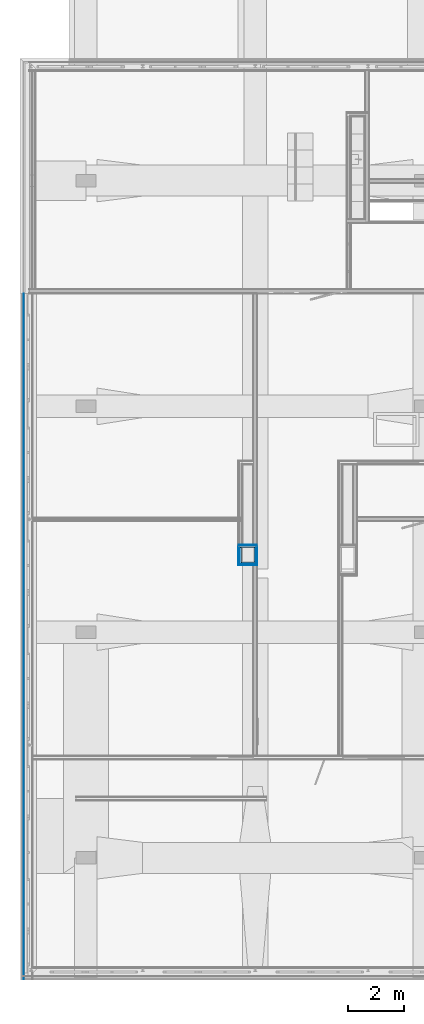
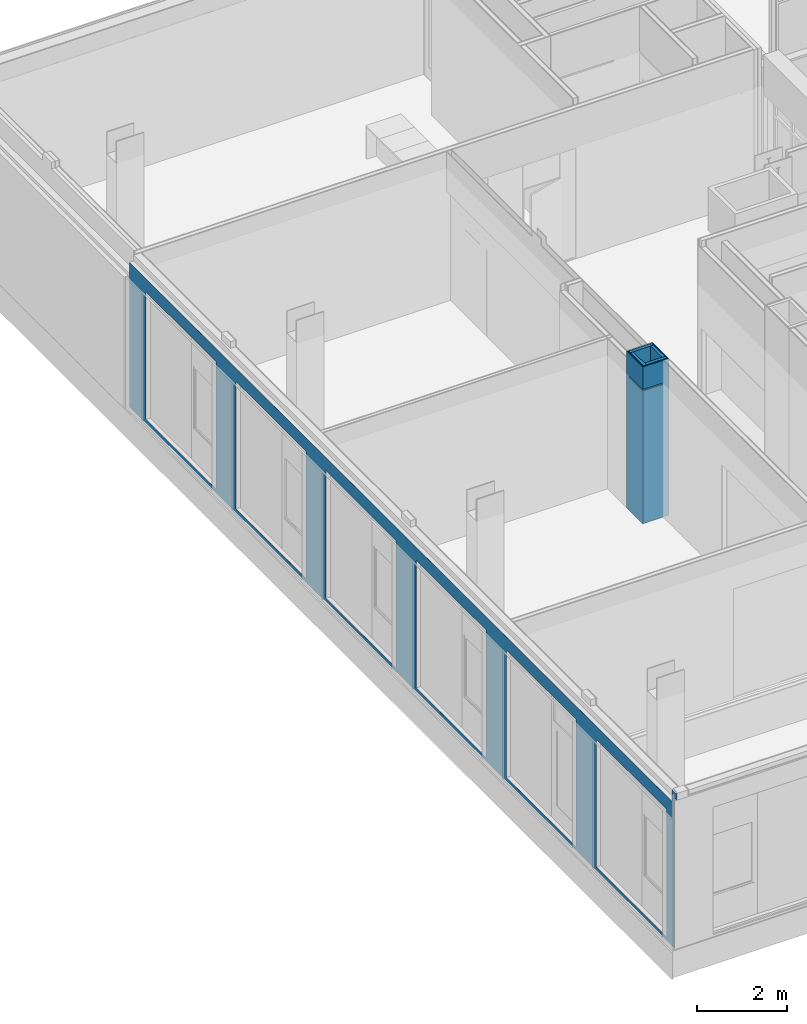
# One storey, part 42 of 94: 15 building element parts, 12 openings, 5 elements without a shape of their own.
"""IFC2X3 building model written with IfcOpenShell, lengths in millimetres."""

from ifc_helpers import new_model, entity, si_unit, converted_unit, derived_unit, money_unit, direction, frame, origin_with_axes, place, context, subcontext, project, spatial, faceted_brep, material, type_object, element, aggregate, save


model = new_model("IFC2X3")

# Units and contexts
model_context = context("Model", 3, precision=0.01, world=origin_with_axes(), true_north=direction((0.0, 1.0)))
body_context = subcontext(model_context, "Body", "Model", "MODEL_VIEW")
ifc_project = project(units=[si_unit("LENGTHUNIT", "METRE", prefix="MILLI"), si_unit("AREAUNIT", "SQUARE_METRE"), si_unit("VOLUMEUNIT", "CUBIC_METRE"), converted_unit("PLANEANGLEUNIT", "DEGREE", entity("IfcPlaneAngleMeasure", 0.0174532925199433), si_unit("PLANEANGLEUNIT", "RADIAN"), dimensions=[0, 0, 0, 0, 0, 0, 0]), money_unit("EUR"), converted_unit("TIMEUNIT", "Year", entity("IfcTimeMeasure", 31557600.0), si_unit("TIMEUNIT", "SECOND"), dimensions=[0, 0, 1, 0, 0, 0, 0]), si_unit("MASSUNIT", "GRAM", prefix="KILO"), si_unit("THERMODYNAMICTEMPERATUREUNIT", "DEGREE_CELSIUS"), si_unit("LUMINOUSINTENSITYUNIT", "LUMEN"), si_unit("ENERGYUNIT", "JOULE", prefix="MEGA"), derived_unit("THERMALCONDUCTANCEUNIT", [(si_unit("POWERUNIT", "WATT"), 1), (si_unit("LENGTHUNIT", "METRE"), -1), (si_unit("THERMODYNAMICTEMPERATUREUNIT", "KELVIN"), -1)]), derived_unit("SPECIFICHEATCAPACITYUNIT", [(si_unit("ENERGYUNIT", "JOULE"), 1), (si_unit("MASSUNIT", "GRAM", prefix="KILO"), -1), (si_unit("THERMODYNAMICTEMPERATUREUNIT", "KELVIN"), -1)]), derived_unit("MASSDENSITYUNIT", [(si_unit("MASSUNIT", "GRAM", prefix="KILO"), 1), (si_unit("VOLUMEUNIT", "CUBIC_METRE"), -1)])], contexts=[model_context])

# Site, building, storey
site_placement = place(None, origin_with_axes())
site = spatial("IfcSite", under=ifc_project, at=site_placement, Name="<site naam>", CompositionType="ELEMENT")
building_placement = place(site_placement, origin_with_axes())
building = spatial("IfcBuilding", under=site, at=building_placement, Name="<Naam gebouw>", CompositionType="ELEMENT")
storey_placement = place(building_placement, frame((0.0, 0.0, 4250.0), z_axis=(0.0, 0.0, 1.0), x_axis=(1.0, 0.0, 0.0)))
storey = spatial("IfcBuildingStorey", under=building, at=storey_placement, Name="01 1e verdieping", CompositionType="ELEMENT", Elevation=4250.0)

# Wall, openings, building element part
wall_type_1 = type_object("IfcWallType", Name="HSB_285 gevelbeplating 420", PredefinedType="NOTDEFINED")
wall_1_placement = place(storey_placement, frame((-12297.99999999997, 12000.00000000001, 0.0), z_axis=(0.0, 0.0, 1.0), x_axis=(0.0, -1.0, 0.0)))
wall_1 = element("IfcWall", 1, at=wall_1_placement, inside=storey, type_object=wall_type_1, Name="21_Binnenwand_HSB_285")
opening_1_placement = place(wall_1_placement, frame((21651.5, 0.0, 99.99999999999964), z_axis=(0.0, 0.0, 1.0), x_axis=(1.0, 0.0, 0.0)))
element("IfcOpeningElement", 2, at=opening_1_placement, cuts=wall_1, Name="21_BU-A-12a_305", context=body_context, shape_type="Brep", body=[
    faceted_brep([(918.4999999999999, 212.9999999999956, 3450.0), (-918.4999999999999, 212.9999999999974, 3450.0), (-918.4999999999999, -0.9999999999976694, 3450.0), (918.4999999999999, -0.9999999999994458, 3450.0), (918.4999999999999, 421.0000000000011, 3450.0), (-918.4999999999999, 421.000000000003, 3450.0), (-918.4999999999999, 212.9999999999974, 0.0), (-918.4999999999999, -0.9999999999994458, 0.0), (918.4999999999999, -0.9999999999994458, 0.0), (918.4999999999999, 212.9999999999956, 0.0), (918.4999999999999, 421.0000000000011, 0.0), (-918.4999999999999, 421.000000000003, 0.0)], [[[0, 1, 2, 3]], [[1, 0, 4, 5]], [[1, 6, 7, 2]], [[2, 7, 8, 3]], [[9, 0, 3, 8]], [[0, 9, 10, 4]], [[4, 10, 11, 5]], [[6, 1, 5, 11]], [[6, 9, 8, 7]], [[9, 6, 11, 10]]]),
])
opening_2_placement = place(wall_1_placement, frame((23203.5, 0.0, 99.99999999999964), z_axis=(0.0, 0.0, 1.0), x_axis=(1.0, 0.0, 0.0)))
element("IfcOpeningElement", 3, at=opening_2_placement, cuts=wall_1, Name="21_BU-A-12b_305", context=body_context, shape_type="Brep", body=[
    faceted_brep([(633.4999999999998, 212.9999999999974, 3450.0), (-633.4999999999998, 212.9999999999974, 3450.0), (-633.4999999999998, -0.9999999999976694, 3450.0), (633.4999999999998, -0.9999999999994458, 3450.0), (633.4999999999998, 421.0000000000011, 3450.0), (-633.4999999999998, 421.0000000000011, 3450.0), (-633.4999999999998, 212.9999999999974, 0.0), (-633.4999999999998, -0.9999999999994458, 0.0), (633.4999999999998, -0.9999999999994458, 0.0), (633.4999999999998, 212.9999999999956, 0.0), (633.4999999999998, 420.9999999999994, 0.0), (-633.4999999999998, 421.0000000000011, 0.0)], [[[0, 1, 2, 3]], [[1, 0, 4, 5]], [[1, 6, 7, 2]], [[2, 7, 8, 3]], [[9, 0, 3, 8]], [[0, 9, 10, 4]], [[4, 10, 11, 5]], [[6, 1, 5, 11]], [[6, 9, 8, 7]], [[9, 6, 11, 10]]]),
])
opening_3_placement = place(wall_1_placement, frame((13651.49999999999, 0.0, 99.99999999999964), z_axis=(0.0, 0.0, 1.0), x_axis=(1.0, 0.0, 0.0)))
element("IfcOpeningElement", 4, at=opening_3_placement, cuts=wall_1, Name="21_BU-A-12a_305", context=body_context, shape_type="Brep", body=[
    faceted_brep([(918.4999999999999, 212.9999999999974, 3450.0), (-918.5, 212.9999999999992, 3450.0), (-918.5, -1.000000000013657, 3450.0), (918.4999999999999, -1.000000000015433, 3450.0), (918.4999999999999, 421.00000000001, 3450.0), (-918.5, 421.0000000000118, 3450.0), (-918.5, 212.9999999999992, 0.0), (-918.5, -1.000000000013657, 0.0), (918.4999999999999, -1.000000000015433, 0.0), (918.4999999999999, 212.9999999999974, 0.0), (918.4999999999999, 421.00000000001, 0.0), (-918.5, 421.0000000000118, 0.0)], [[[0, 1, 2, 3]], [[1, 0, 4, 5]], [[1, 6, 7, 2]], [[2, 7, 8, 3]], [[9, 0, 3, 8]], [[0, 9, 10, 4]], [[4, 10, 11, 5]], [[6, 1, 5, 11]], [[6, 9, 8, 7]], [[9, 6, 11, 10]]]),
])
opening_4_placement = place(wall_1_placement, frame((15203.49999999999, 0.0, 99.99999999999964), z_axis=(0.0, 0.0, 1.0), x_axis=(1.0, 0.0, 0.0)))
element("IfcOpeningElement", 5, at=opening_4_placement, cuts=wall_1, Name="21_BU-A-12b_305", context=body_context, shape_type="Brep", body=[
    faceted_brep([(633.4999999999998, 212.9999999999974, 3450.0), (-633.4999999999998, 212.9999999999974, 3450.0), (-633.4999999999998, -0.9999999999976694, 3450.0), (633.4999999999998, -0.9999999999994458, 3450.0), (633.4999999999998, 421.0000000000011, 3450.0), (-633.4999999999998, 421.0000000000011, 3450.0), (-633.4999999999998, 212.9999999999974, 0.0), (-633.4999999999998, -0.9999999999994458, 0.0), (633.4999999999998, -0.9999999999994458, 0.0), (633.4999999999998, 212.9999999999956, 0.0), (633.4999999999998, 420.9999999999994, 0.0), (-633.4999999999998, 421.0000000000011, 0.0)], [[[0, 1, 2, 3]], [[1, 0, 4, 5]], [[1, 6, 7, 2]], [[2, 7, 8, 3]], [[9, 0, 3, 8]], [[0, 9, 10, 4]], [[4, 10, 11, 5]], [[6, 1, 5, 11]], [[6, 9, 8, 7]], [[9, 6, 11, 10]]]),
])
opening_5_placement = place(wall_1_placement, frame((11203.48397384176, 0.0, 99.99999999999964), z_axis=(0.0, 0.0, 1.0), x_axis=(1.0, 0.0, 0.0)))
element("IfcOpeningElement", 6, at=opening_5_placement, cuts=wall_1, Name="21_BU-A-12b_305", context=body_context, shape_type="Brep", body=[
    faceted_brep([(633.5, 212.9999999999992, 3450.0), (-633.5, 212.9999999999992, 3450.0), (-633.5, -1.000000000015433, 3450.0), (633.5, -1.000000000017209, 3450.0), (633.5, 421.0000000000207, 3450.0), (-633.5, 421.0000000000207, 3450.0), (-633.5, 212.9999999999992, 0.0), (-633.5, -1.000000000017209, 0.0), (633.5, -1.000000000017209, 0.0), (633.5, 212.9999999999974, 0.0), (633.5, 421.0000000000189, 0.0), (-633.5, 421.0000000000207, 0.0)], [[[0, 1, 2, 3]], [[1, 0, 4, 5]], [[1, 6, 7, 2]], [[2, 7, 8, 3]], [[9, 0, 3, 8]], [[0, 9, 10, 4]], [[4, 10, 11, 5]], [[6, 1, 5, 11]], [[6, 9, 8, 7]], [[9, 6, 11, 10]]]),
])
opening_6_placement = place(wall_1_placement, frame((5651.499999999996, 0.0, 99.99999999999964), z_axis=(0.0, 0.0, 1.0), x_axis=(1.0, 0.0, 0.0)))
element("IfcOpeningElement", 7, at=opening_6_placement, cuts=wall_1, Name="21_BU-A-12a_305", context=body_context, shape_type="Brep", body=[
    faceted_brep([(918.4999999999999, 212.9999999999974, 3450.0), (-918.4999999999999, 212.9999999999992, 3450.0), (-918.4999999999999, -1.000000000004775, 3450.0), (918.4999999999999, -1.000000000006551, 3450.0), (918.4999999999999, 421.0000000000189, 3450.0), (-918.4999999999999, 421.0000000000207, 3450.0), (-918.4999999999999, 212.9999999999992, 0.0), (-918.4999999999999, -1.000000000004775, 0.0), (918.4999999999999, -1.000000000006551, 0.0), (918.4999999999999, 212.9999999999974, 0.0), (918.4999999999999, 421.0000000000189, 0.0), (-918.4999999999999, 421.0000000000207, 0.0)], [[[0, 1, 2, 3]], [[1, 0, 4, 5]], [[1, 6, 7, 2]], [[2, 7, 8, 3]], [[9, 0, 3, 8]], [[0, 9, 10, 4]], [[4, 10, 11, 5]], [[6, 1, 5, 11]], [[6, 9, 8, 7]], [[9, 6, 11, 10]]]),
])
opening_7_placement = place(wall_1_placement, frame((7203.499999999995, 0.0, 99.99999999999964), z_axis=(0.0, 0.0, 1.0), x_axis=(1.0, 0.0, 0.0)))
element("IfcOpeningElement", 8, at=opening_7_placement, cuts=wall_1, Name="21_BU-A-12b_305", context=body_context, shape_type="Brep", body=[
    faceted_brep([(633.4999999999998, 212.9999999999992, 3450.0), (-633.4999999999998, 212.9999999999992, 3450.0), (-633.4999999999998, -1.000000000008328, 3450.0), (633.4999999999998, -1.000000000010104, 3450.0), (633.4999999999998, 421.0000000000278, 3450.0), (-633.4999999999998, 421.0000000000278, 3450.0), (-633.4999999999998, 212.9999999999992, 0.0), (-633.4999999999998, -1.000000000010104, 0.0), (633.4999999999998, -1.000000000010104, 0.0), (633.4999999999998, 212.9999999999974, 0.0), (633.4999999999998, 421.000000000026, 0.0), (-633.4999999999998, 421.0000000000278, 0.0)], [[[0, 1, 2, 3]], [[1, 0, 4, 5]], [[1, 6, 7, 2]], [[2, 7, 8, 3]], [[9, 0, 3, 8]], [[0, 9, 10, 4]], [[4, 10, 11, 5]], [[6, 1, 5, 11]], [[6, 9, 8, 7]], [[9, 6, 11, 10]]]),
])
opening_8_placement = place(wall_1_placement, frame((9651.48397384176, 0.0, 99.99999999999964), z_axis=(0.0, 0.0, 1.0), x_axis=(1.0, 0.0, 0.0)))
element("IfcOpeningElement", 9, at=opening_8_placement, cuts=wall_1, Name="21_BU-A-12a_305", context=body_context, shape_type="Brep", body=[
    faceted_brep([(918.4999999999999, 212.9999999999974, 3450.0), (-918.4999999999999, 212.9999999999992, 3450.0), (-918.4999999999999, -1.000000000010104, 3450.0), (918.4999999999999, -1.00000000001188, 3450.0), (918.4999999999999, 421.0000000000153, 3450.0), (-918.4999999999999, 421.0000000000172, 3450.0), (-918.4999999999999, 212.9999999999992, 0.0), (-918.4999999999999, -1.000000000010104, 0.0), (918.4999999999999, -1.00000000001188, 0.0), (918.4999999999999, 212.9999999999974, 0.0), (918.4999999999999, 421.0000000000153, 0.0), (-918.4999999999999, 421.0000000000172, 0.0)], [[[0, 1, 2, 3]], [[1, 0, 4, 5]], [[1, 6, 7, 2]], [[2, 7, 8, 3]], [[9, 0, 3, 8]], [[0, 9, 10, 4]], [[4, 10, 11, 5]], [[6, 1, 5, 11]], [[6, 9, 8, 7]], [[9, 6, 11, 10]]]),
])
opening_9_placement = place(wall_1_placement, frame((1651.483973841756, 0.0, 99.99999999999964), z_axis=(0.0, 0.0, 1.0), x_axis=(1.0, 0.0, 0.0)))
element("IfcOpeningElement", 10, at=opening_9_placement, cuts=wall_1, Name="21_BU-A-12a_305", context=body_context, shape_type="Brep", body=[
    faceted_brep([(918.4999999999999, 212.9999999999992, 3450.0), (-918.4999999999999, 213.000000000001, 3450.0), (-918.4999999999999, -0.9999999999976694, 3450.0), (918.4999999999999, -0.9999999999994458, 3450.0), (918.4999999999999, 421.0000000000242, 3450.0), (-918.4999999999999, 421.000000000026, 3450.0), (-918.4999999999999, 213.000000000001, 0.0), (-918.4999999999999, -0.9999999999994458, 0.0), (918.4999999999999, -0.9999999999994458, 0.0), (918.4999999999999, 212.9999999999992, 0.0), (918.4999999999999, 421.0000000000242, 0.0), (-918.4999999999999, 421.000000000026, 0.0)], [[[0, 1, 2, 3]], [[1, 0, 4, 5]], [[1, 6, 7, 2]], [[2, 7, 8, 3]], [[9, 0, 3, 8]], [[0, 9, 10, 4]], [[4, 10, 11, 5]], [[6, 1, 5, 11]], [[6, 9, 8, 7]], [[9, 6, 11, 10]]]),
])
opening_10_placement = place(wall_1_placement, frame((17651.5, 0.0, 99.99999999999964), z_axis=(0.0, 0.0, 1.0), x_axis=(1.0, 0.0, 0.0)))
element("IfcOpeningElement", 11, at=opening_10_placement, cuts=wall_1, Name="21_BU-A-12a_305", context=body_context, shape_type="Brep", body=[
    faceted_brep([(918.4999999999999, 212.9999999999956, 3450.0), (-918.4999999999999, 212.9999999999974, 3450.0), (-918.4999999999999, -0.9999999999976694, 3450.0), (918.4999999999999, -0.9999999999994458, 3450.0), (918.4999999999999, 421.0000000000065, 3450.0), (-918.4999999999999, 421.0000000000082, 3450.0), (-918.4999999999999, 212.9999999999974, 0.0), (-918.4999999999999, -0.9999999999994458, 0.0), (918.4999999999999, -0.9999999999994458, 0.0), (918.4999999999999, 212.9999999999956, 0.0), (918.4999999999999, 421.0000000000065, 0.0), (-918.4999999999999, 421.0000000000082, 0.0)], [[[0, 1, 2, 3]], [[1, 0, 4, 5]], [[1, 6, 7, 2]], [[2, 7, 8, 3]], [[9, 0, 3, 8]], [[0, 9, 10, 4]], [[4, 10, 11, 5]], [[6, 1, 5, 11]], [[6, 9, 8, 7]], [[9, 6, 11, 10]]]),
])
opening_11_placement = place(wall_1_placement, frame((3203.483973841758, 0.0, 99.99999999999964), z_axis=(0.0, 0.0, 1.0), x_axis=(1.0, 0.0, 0.0)))
element("IfcOpeningElement", 12, at=opening_11_placement, cuts=wall_1, Name="21_BU-A-12b_305", context=body_context, shape_type="Brep", body=[
    faceted_brep([(633.4999999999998, 213.000000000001, 3450.0), (-633.4999999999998, 213.000000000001, 3450.0), (-633.4999999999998, -0.9999999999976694, 3450.0), (633.4999999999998, -0.9999999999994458, 3450.0), (633.4999999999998, 421.0000000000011, 3450.0), (-633.4999999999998, 421.0000000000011, 3450.0), (-633.4999999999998, 213.000000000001, 0.0), (-633.4999999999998, -0.9999999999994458, 0.0), (633.4999999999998, -0.9999999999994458, 0.0), (633.4999999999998, 212.9999999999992, 0.0), (633.4999999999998, 420.9999999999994, 0.0), (-633.4999999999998, 421.0000000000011, 0.0)], [[[0, 1, 2, 3]], [[1, 0, 4, 5]], [[1, 6, 7, 2]], [[2, 7, 8, 3]], [[9, 0, 3, 8]], [[0, 9, 10, 4]], [[4, 10, 11, 5]], [[6, 1, 5, 11]], [[6, 9, 8, 7]], [[9, 6, 11, 10]]]),
])
opening_12_placement = place(wall_1_placement, frame((19203.51614474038, 0.0, 102.9999634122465), z_axis=(0.0, 0.0, 1.0), x_axis=(1.0, 0.0, 0.0)))
element("IfcOpeningElement", 13, at=opening_12_placement, cuts=wall_1, Name="21_BU-A-12c_305", context=body_context, shape_type="Brep", body=[
    faceted_brep([(633.504886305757, 204.9999999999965, 3454.0), (-633.504886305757, 204.9999999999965, 3454.0), (-633.504886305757, -0.9999999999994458, 3454.0), (633.504886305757, -0.9999999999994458, 3454.0), (633.504886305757, 420.9999999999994, 3454.0), (-633.504886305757, 420.9999999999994, 3454.0), (-633.504886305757, 204.9999999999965, 0.0), (-633.504886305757, -0.9999999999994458, 0.0), (633.504886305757, -0.9999999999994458, 0.0), (633.504886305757, 204.9999999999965, 0.0), (633.504886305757, 420.9999999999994, 0.0), (-633.504886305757, 420.9999999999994, 0.0)], [[[0, 1, 2, 3]], [[1, 0, 4, 5]], [[1, 6, 7, 2]], [[2, 7, 8, 3]], [[9, 0, 3, 8]], [[0, 9, 10, 4]], [[4, 10, 11, 5]], [[6, 1, 5, 11]], [[6, 9, 8, 7]], [[9, 6, 11, 10]]]),
])
ifc_material_1 = material(Name="folie_dampopen")
building_element_part_1_placement = place(wall_1_placement, origin_with_axes())
building_element_part_1 = element("IfcBuildingElementPart", 14, at=building_element_part_1_placement, material=ifc_material_1, Name="folie_dampopen", context=body_context, shape_type="Brep", body=[
    faceted_brep([(24082.49008809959, 101.9999999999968, 4220.000040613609), (24082.49008809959, 102.4999999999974, 4220.000040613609), (24082.49008809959, 102.4999999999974, 3909.999659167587), (24082.49008809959, 101.9999999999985, 3909.999659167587), (24274.99008809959, 102.4999999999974, 4220.000040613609), (24274.99008809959, 101.9999999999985, 4220.000040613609), (24274.99008809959, 102.4999999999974, 4249.999998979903), (24300.03170931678, 102.4999999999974, 4249.99999897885), (24300.03170931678, 102.4999999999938, 4070.000000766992), (24198.03170931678, 102.4999999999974, 4070.000000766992), (24198.03170931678, 102.4999999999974, 0.0), (0.0, 102.4999999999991, 0.0), (0.0, 102.5000000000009, 3909.999659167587), (0.0, 102.0000000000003, 3909.999659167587), (0.0, 102.0000000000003, 0.0), (24198.03170931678, 101.9999999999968, 0.0), (24198.03170931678, 101.9999999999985, 4070.000000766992), (24300.03170931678, 101.9999999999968, 4070.000000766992), (24300.03170931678, 101.9999999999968, 4249.99999897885), (24274.99008809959, 101.9999999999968, 4249.999998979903)], [[[0, 1, 2, 3]], [[4, 1, 0, 5]], [[4, 6, 7, 8, 9, 10, 11, 12, 2, 1]], [[3, 2, 12, 13]], [[5, 0, 3, 13, 14, 15, 16, 17, 18, 19]], [[19, 6, 4, 5]], [[6, 19, 18, 7]], [[7, 18, 17, 8]], [[8, 17, 16, 9]], [[16, 15, 10, 9]], [[14, 11, 10, 15]], [[14, 13, 12, 11]]]),
])
aggregate(wall_1, [building_element_part_1])

# Wall, building element parts
wall_type_2 = type_object("IfcWallType", Name="MS-04 GF 138 V/100.3.A 113", PredefinedType="NOTDEFINED")
wall_2_placement = place(storey_placement, frame((-3924.99979006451, 3104.999976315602, 0.0), z_axis=(0.0, 0.0, 1.0), x_axis=(-0.9999999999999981, -6.217457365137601e-08, 0.0)))
wall_2 = element("IfcWall", 15, at=wall_2_placement, inside=storey, type_object=wall_type_2, Name="22_Binnenwand_MS-04")
ifc_material_2 = material(Name="isolatie_steenwol LSW")
building_element_part_2_placement = place(wall_2_placement, origin_with_axes())
building_element_part_2 = element("IfcBuildingElementPart", 16, at=building_element_part_2_placement, material=ifc_material_2, Name="isolatie_steenwol LSW", context=body_context, shape_type="Brep", body=[
    faceted_brep([(37.50000699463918, 112.4999976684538, 4250.0), (37.50000233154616, 37.49999766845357, 4250.0), (632.4996341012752, 37.49996067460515, 4250.0), (632.4996387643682, 112.4999606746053, 4250.0), (37.5000023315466, 37.49999766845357, 0.0), (37.50000699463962, 112.4999976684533, 0.0), (632.4996341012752, 37.49996067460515, 0.0), (632.4996387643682, 112.4999606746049, 0.0)], [[[0, 1, 2, 3]], [[4, 1, 0, 5]], [[1, 4, 6, 2]], [[3, 2, 6, 7]], [[5, 0, 3, 7]], [[4, 5, 7, 6]]]),
])
ifc_material_3 = material(Name="gipsplaat")
building_element_part_3_placement = place(wall_2_placement, origin_with_axes())
building_element_part_3 = element("IfcBuildingElementPart", 17, at=building_element_part_3_placement, material=ifc_material_3, Name="gipsplaat", context=body_context, shape_type="Brep", body=[
    faceted_brep([(12.50000155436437, 24.99999922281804, 4250.0), (12.50000077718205, 12.49999922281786, 4250.0), (657.4996325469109, 12.49995912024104, 4250.0), (657.4996333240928, 24.99995912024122, 4250.0), (12.5000007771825, 12.4999992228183, 0.0), (12.50000155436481, 24.99999922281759, 0.0), (657.4996325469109, 12.4999591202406, 0.0), (657.4996333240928, 24.99995912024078, 0.0)], [[[0, 1, 2, 3]], [[4, 1, 0, 5]], [[1, 4, 6, 2]], [[3, 2, 6, 7]], [[5, 0, 3, 7]], [[4, 5, 7, 6]]]),
])
aggregate(wall_2, [building_element_part_2, building_element_part_3])

wall_3_placement = place(storey_placement, frame((-4594.99942183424, 3104.999934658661, 0.0), z_axis=(0.0, 0.0, 1.0), x_axis=(0.0, -1.0, 0.0)))
wall_3 = element("IfcWall", 18, at=wall_3_placement, inside=storey, type_object=wall_type_2, Name="22_Binnenwand_MS-04")
building_element_part_4_placement = place(wall_3_placement, origin_with_axes())
building_element_part_4 = element("IfcBuildingElementPart", 19, at=building_element_part_4_placement, material=ifc_material_2, Name="isolatie_steenwol LSW", context=body_context, shape_type="Brep", body=[
    faceted_brep([(637.5319356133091, 112.4999999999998, 3.000000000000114), (637.5319356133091, 112.4999999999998, 0.0), (112.4999930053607, 112.4999999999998, 0.0), (112.4999930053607, 112.5000000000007, 4250.0), (692.6809481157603, 112.4999999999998, 4250.0), (692.6809481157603, 112.4999999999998, 3640.0), (149.896176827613, 112.4999999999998, 3640.0), (149.896176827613, 112.4999999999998, 3600.0), (692.6809481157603, 112.4999999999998, 3600.0), (692.6809481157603, 112.4999999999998, 3.000000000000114), (637.5319356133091, 37.50000000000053, 3.000000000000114), (637.5319356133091, 37.49999999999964, 0.0), (112.4999976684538, 37.49999999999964, 0.0), (112.4999976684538, 37.50000000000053, 4250.0), (692.6809481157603, 37.50000000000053, 4250.0), (692.6809481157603, 37.50000000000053, 3640.0), (149.896176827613, 37.50000000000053, 3640.0), (149.896176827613, 37.50000000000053, 3600.0), (692.6809481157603, 37.50000000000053, 3600.0), (692.6809481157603, 37.49999999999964, 3.000000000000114)], [[[0, 1, 2, 3, 4, 5, 6, 7, 8, 9]], [[1, 0, 10, 11]], [[1, 11, 12, 2]], [[3, 2, 12, 13]], [[14, 4, 3, 13]], [[15, 5, 4, 14]], [[6, 5, 15, 16]], [[7, 6, 16, 17]], [[8, 7, 17, 18]], [[19, 9, 8, 18]], [[0, 9, 19, 10]], [[10, 19, 18, 17, 16, 15, 14, 13, 12, 11]]]),
])
building_element_part_5_placement = place(wall_3_placement, origin_with_axes())
building_element_part_5 = element("IfcBuildingElementPart", 20, at=building_element_part_5_placement, material=ifc_material_3, Name="gipsplaat", context=body_context, shape_type="Brep", body=[
    faceted_brep([(637.5319356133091, 37.49999999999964, 3.000000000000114), (637.5319356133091, 37.49999999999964, 0.0), (37.49999766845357, 37.49999999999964, 0.0), (37.49999766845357, 37.50000000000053, 4250.0), (705.1809481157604, 37.50000000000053, 4250.0), (705.1809481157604, 37.50000000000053, 3640.0), (149.896176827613, 37.49999999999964, 3640.0), (149.896176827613, 37.49999999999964, 3600.0), (705.1809481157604, 37.50000000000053, 3600.0), (705.1809481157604, 37.49999999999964, 3.000000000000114), (637.5319356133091, 25.00000000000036, 3.000000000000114), (637.5319356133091, 24.99999999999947, 0.0), (37.4999984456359, 25.00000000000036, 0.0), (37.4999984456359, 25.00000000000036, 4250.0), (705.1809481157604, 25.00000000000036, 4250.0), (705.1809481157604, 25.00000000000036, 3640.0), (149.896176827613, 25.00000000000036, 3640.0), (149.896176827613, 25.00000000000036, 3600.0), (705.1809481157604, 25.00000000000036, 3600.0), (705.1809481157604, 24.99999999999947, 3.000000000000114)], [[[0, 1, 2, 3, 4, 5, 6, 7, 8, 9]], [[1, 0, 10, 11]], [[1, 11, 12, 2]], [[3, 2, 12, 13]], [[14, 4, 3, 13]], [[15, 5, 4, 14]], [[6, 5, 15, 16]], [[7, 6, 16, 17]], [[8, 7, 17, 18]], [[19, 9, 8, 18]], [[0, 9, 19, 10]], [[10, 19, 18, 17, 16, 15, 14, 13, 12, 11]]]),
])
building_element_part_6_placement = place(wall_3_placement, origin_with_axes())
building_element_part_6 = element("IfcBuildingElementPart", 21, at=building_element_part_6_placement, material=ifc_material_3, Name="gipsplaat", context=body_context, shape_type="Brep", body=[
    faceted_brep([(637.5319356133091, 24.99999999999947, 3.000000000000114), (637.5319356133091, 24.99999999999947, 0.0), (24.99999844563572, 25.00000000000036, 0.0), (24.99999844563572, 25.00000000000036, 4250.0), (717.6809481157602, 25.00000000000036, 4250.0), (717.6809481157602, 25.00000000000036, 3640.0), (149.896176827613, 24.99999999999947, 3640.0), (149.896176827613, 24.99999999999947, 3600.0), (717.6809481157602, 25.00000000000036, 3600.0), (717.6809481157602, 24.99999999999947, 3.000000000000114), (637.5319356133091, 12.50000000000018, 3.000000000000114), (637.5319356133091, 12.50000000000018, 0.0), (24.99999922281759, 12.50000000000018, 0.0), (24.99999922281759, 12.50000000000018, 4250.0), (717.6809481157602, 12.50000000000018, 4250.0), (717.6809481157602, 12.50000000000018, 3640.0), (149.896176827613, 12.50000000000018, 3640.0), (149.896176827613, 12.50000000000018, 3600.0), (717.6809481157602, 12.50000000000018, 3600.0), (717.6809481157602, 12.50000000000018, 3.000000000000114)], [[[0, 1, 2, 3, 4, 5, 6, 7, 8, 9]], [[1, 0, 10, 11]], [[1, 11, 12, 2]], [[3, 2, 12, 13]], [[14, 4, 3, 13]], [[15, 5, 4, 14]], [[6, 5, 15, 16]], [[7, 6, 16, 17]], [[8, 7, 17, 18]], [[19, 9, 8, 18]], [[0, 9, 19, 10]], [[10, 19, 18, 17, 16, 15, 14, 13, 12, 11]]]),
])

# Wall, building element part
wall_4_placement = place(storey_placement, frame((-4594.99942183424, 2374.818986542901, 0.0), z_axis=(0.0, 0.0, 1.0), x_axis=(1.0, 0.0, 0.0)))
wall_4 = element("IfcWall", 22, at=wall_4_placement, inside=storey, type_object=wall_type_2, Name="22_Binnenwand_MS-04")
building_element_part_7_placement = place(wall_4_placement, origin_with_axes())
building_element_part_7 = element("IfcBuildingElementPart", 23, at=building_element_part_7_placement, material=ifc_material_2, Name="isolatie_steenwol LSW", context=body_context, shape_type="Brep", body=[
    faceted_brep([(632.4996317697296, 92.64901250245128, 3.000000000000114), (632.4996317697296, 92.64901250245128, 0.0), (632.4996317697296, 112.5000000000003, 0.0), (632.4996317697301, 112.5000000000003, 4250.0), (632.4996317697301, 37.50000000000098, 4250.0), (632.4996317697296, 37.50000000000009, 3.000000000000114), (112.4999999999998, 92.64901250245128, 3.000000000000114), (112.4999999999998, 92.64901250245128, 0.0), (112.4999999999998, 112.4999999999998, 0.0), (112.4999999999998, 112.5000000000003, 3600.0), (519.9994506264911, 112.5000000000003, 3600.0), (519.9994506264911, 112.5000000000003, 3640.0), (112.4999999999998, 112.5000000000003, 3640.0), (112.4999999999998, 112.5000000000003, 4250.0), (112.4999999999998, 37.50000000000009, 4250.0), (112.4999999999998, 37.50000000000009, 3.000000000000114), (112.4999999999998, 37.50000000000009, 3640.0), (519.9994506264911, 37.50000000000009, 3640.0), (519.9994506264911, 37.50000000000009, 3600.0), (112.4999999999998, 37.50000000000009, 3600.0)], [[[0, 1, 2, 3, 4, 5]], [[1, 0, 6, 7]], [[1, 7, 8, 2]], [[9, 10, 11, 12, 13, 3, 2, 8]], [[14, 4, 3, 13]], [[15, 5, 4, 14, 16, 17, 18, 19]], [[0, 5, 15, 6]], [[6, 15, 19, 9, 8, 7]], [[10, 9, 19, 18]], [[11, 10, 18, 17]], [[12, 11, 17, 16]], [[12, 16, 14, 13]]]),
])

# Building element part
building_element_part_8_placement = place(wall_3_placement, origin_with_axes())
building_element_part_8 = element("IfcBuildingElementPart", 24, at=building_element_part_8_placement, material=ifc_material_3, Name="gipsplaat", context=body_context, shape_type="Brep", body=[
    faceted_brep([(637.5319356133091, 12.50000000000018, 3.000000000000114), (637.5319356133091, 12.50000000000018, 0.0), (12.49999922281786, 12.50000000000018, 0.0), (12.49999922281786, 12.50000000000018, 4250.0), (730.1809481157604, 12.50000000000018, 4250.0), (730.1809481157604, 12.50000000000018, 3640.0), (149.896176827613, 12.50000000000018, 3640.0), (149.896176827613, 12.50000000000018, 3600.0), (730.1809481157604, 12.50000000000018, 3600.0), (730.1809481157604, 12.50000000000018, 3.000000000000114), (637.5319356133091, 0.0, 3.000000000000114), (637.5319356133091, 0.0, 0.0), (12.50000000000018, 0.0, 0.0), (12.50000000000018, 0.0, 4250.0), (730.1809481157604, 0.0, 4250.0), (730.1809481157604, 0.0, 3640.0), (149.896176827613, 0.0, 3640.0), (149.896176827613, 0.0, 3600.0), (730.1809481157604, 0.0, 3600.0), (730.1809481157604, 0.0, 3.000000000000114)], [[[0, 1, 2, 3, 4, 5, 6, 7, 8, 9]], [[1, 0, 10, 11]], [[1, 11, 12, 2]], [[3, 2, 12, 13]], [[14, 4, 3, 13]], [[15, 5, 4, 14]], [[6, 5, 15, 16]], [[7, 6, 16, 17]], [[8, 7, 17, 18]], [[19, 9, 8, 18]], [[0, 9, 19, 10]], [[10, 19, 18, 17, 16, 15, 14, 13, 12, 11]]]),
])

aggregate(wall_3, [building_element_part_4, building_element_part_5, building_element_part_6, building_element_part_8])

building_element_part_9_placement = place(wall_4_placement, origin_with_axes())
building_element_part_9 = element("IfcBuildingElementPart", 25, at=building_element_part_9_placement, material=ifc_material_3, Name="gipsplaat", context=body_context, shape_type="Brep", body=[
    faceted_brep([(657.4996317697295, 12.50000000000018, 3.000000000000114), (657.4996317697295, 24.99999999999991, 3.000000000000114), (657.4996317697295, 25.00000000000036, 4250.0), (657.4996317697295, 12.50000000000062, 4250.0), (25.00000000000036, 24.99999999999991, 3.000000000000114), (25.00000000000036, 12.50000000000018, 3.000000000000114), (25.00000000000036, 25.00000000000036, 3600.0), (519.9994506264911, 24.99999999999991, 3600.0), (519.9994506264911, 24.99999999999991, 3640.0), (25.00000000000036, 25.00000000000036, 3640.0), (25.00000000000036, 25.00000000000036, 4250.0), (25.00000000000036, 12.50000000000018, 4250.0), (25.00000000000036, 12.50000000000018, 3640.0), (519.9994506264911, 12.50000000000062, 3640.0), (519.9994506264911, 12.50000000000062, 3600.0), (25.00000000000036, 12.50000000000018, 3600.0)], [[[0, 1, 2, 3]], [[4, 1, 0, 5]], [[1, 4, 6, 7, 8, 9, 10, 2]], [[11, 3, 2, 10]], [[5, 0, 3, 11, 12, 13, 14, 15]], [[4, 5, 15, 6]], [[7, 6, 15, 14]], [[8, 7, 14, 13]], [[9, 8, 13, 12]], [[9, 12, 11, 10]]]),
])

building_element_part_10_placement = place(wall_4_placement, origin_with_axes())
building_element_part_10 = element("IfcBuildingElementPart", 26, at=building_element_part_10_placement, material=ifc_material_3, Name="gipsplaat", context=body_context, shape_type="Brep", body=[
    faceted_brep([(644.9996317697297, 24.99999999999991, 3.000000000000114), (644.9996317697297, 37.50000000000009, 3.000000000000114), (644.9996317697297, 37.50000000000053, 4250.0), (644.9996317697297, 25.0000000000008, 4250.0), (37.49999999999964, 37.50000000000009, 3.000000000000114), (37.49999999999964, 24.99999999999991, 3.000000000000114), (37.49999999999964, 37.50000000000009, 3600.0), (519.9994506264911, 37.50000000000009, 3600.0), (519.9994506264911, 37.50000000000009, 3640.0), (37.49999999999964, 37.50000000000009, 3640.0), (37.49999999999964, 37.50000000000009, 4250.0), (37.49999999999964, 25.00000000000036, 4250.0), (37.49999999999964, 25.00000000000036, 3640.0), (519.9994506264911, 24.99999999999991, 3640.0), (519.9994506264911, 24.99999999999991, 3600.0), (37.49999999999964, 25.00000000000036, 3600.0)], [[[0, 1, 2, 3]], [[4, 1, 0, 5]], [[1, 4, 6, 7, 8, 9, 10, 2]], [[11, 3, 2, 10]], [[5, 0, 3, 11, 12, 13, 14, 15]], [[4, 5, 15, 6]], [[7, 6, 15, 14]], [[8, 7, 14, 13]], [[9, 8, 13, 12]], [[9, 12, 11, 10]]]),
])

# Wall, building element parts
wall_5_placement = place(storey_placement, frame((-3924.99979006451, 3104.999976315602, 0.0), z_axis=(0.0, 0.0, 1.0), x_axis=(0.0, -1.0, 0.0)))
wall_5 = element("IfcWall", 27, at=wall_5_placement, inside=storey, type_object=wall_type_2, Name="22_Binnenwand_MS-04")
building_element_part_11_placement = place(wall_5_placement, origin_with_axes())
building_element_part_11 = element("IfcBuildingElementPart", 28, at=building_element_part_11_placement, material=ifc_material_3, Name="gipsplaat", context=body_context, shape_type="Brep", body=[
    faceted_brep([(637.5319772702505, -0.0001203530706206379, 3.000000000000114), (637.5319772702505, -0.0001203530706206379, 0.0), (12.50000000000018, 0.0, 0.0), (12.50000000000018, 0.0, 4250.0), (717.6809897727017, 0.0, 4250.0), (717.6809897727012, -0.0001203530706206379, 3.000000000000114), (637.5319772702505, -12.50000000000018, 3.000000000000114), (637.5319772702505, -12.50000000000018, 0.0), (12.5000007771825, -12.50000000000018, 0.0), (12.5000007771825, -12.50000000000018, 4250.0), (717.6809897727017, -12.50000000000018, 4250.0), (717.6809897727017, -12.50000000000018, 3.000000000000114)], [[[0, 1, 2, 3, 4, 5]], [[1, 0, 6, 7]], [[1, 7, 8, 2]], [[8, 9, 3, 2]], [[10, 4, 3, 9]], [[11, 5, 4, 10]], [[0, 5, 11, 6]], [[6, 11, 10, 9, 8, 7]]]),
])
building_element_part_12_placement = place(wall_5_placement, origin_with_axes())
building_element_part_12 = element("IfcBuildingElementPart", 29, at=building_element_part_12_placement, material=ifc_material_3, Name="gipsplaat", context=body_context, shape_type="Brep", body=[
    faceted_brep([(637.5319772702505, -12.50000000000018, 3.000000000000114), (637.5319772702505, -12.50000000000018, 0.0), (25.00000077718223, -12.50000000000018, 0.0), (25.00000077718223, -12.50000000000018, 4250.0), (705.180989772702, -12.50000000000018, 4250.0), (705.180989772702, -12.50000000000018, 3.000000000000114), (637.5319772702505, -24.99999999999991, 3.000000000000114), (637.5319772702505, -24.99999999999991, 0.0), (25.0000015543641, -24.99999999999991, 0.0), (25.0000015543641, -24.99999999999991, 4250.0), (705.180989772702, -24.99999999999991, 4250.0), (705.180989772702, -24.99999999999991, 3.000000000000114)], [[[0, 1, 2, 3, 4, 5]], [[1, 0, 6, 7]], [[1, 7, 8, 2]], [[8, 9, 3, 2]], [[10, 4, 3, 9]], [[11, 5, 4, 10]], [[0, 5, 11, 6]], [[6, 11, 10, 9, 8, 7]]]),
])

# Building element part
building_element_part_13_placement = place(wall_4_placement, origin_with_axes())
building_element_part_13 = element("IfcBuildingElementPart", 30, at=building_element_part_13_placement, material=ifc_material_3, Name="gipsplaat", context=body_context, shape_type="Brep", body=[
    faceted_brep([(669.9994218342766, 0.0, 3.000000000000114), (669.9994218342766, 12.50000000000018, 3.000000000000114), (669.9996056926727, 12.50000000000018, 4250.0), (669.9996056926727, 0.0, 4250.0), (12.50000000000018, 12.50000000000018, 3.000000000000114), (12.50000000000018, 0.0, 3.000000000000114), (12.50000000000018, 12.50000000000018, 3600.0), (519.9994506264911, 12.49999999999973, 3600.0), (519.9994506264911, 12.49999999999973, 3640.0), (12.50000000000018, 12.50000000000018, 3640.0), (12.50000000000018, 12.50000000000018, 4250.0), (12.50000000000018, 0.0, 4250.0), (12.50000000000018, 0.0, 3640.0), (519.9994506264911, 0.0, 3640.0), (519.9994506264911, 0.0, 3600.0), (12.50000000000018, 0.0, 3600.0)], [[[0, 1, 2, 3]], [[4, 1, 0, 5]], [[1, 4, 6, 7, 8, 9, 10, 2]], [[11, 3, 2, 10]], [[5, 0, 3, 11, 12, 13, 14, 15]], [[4, 5, 15, 6]], [[7, 6, 15, 14]], [[8, 7, 14, 13]], [[9, 8, 13, 12]], [[9, 12, 11, 10]]]),
])

aggregate(wall_4, [building_element_part_7, building_element_part_9, building_element_part_10, building_element_part_13])

building_element_part_14_placement = place(wall_5_placement, origin_with_axes())
building_element_part_14 = element("IfcBuildingElementPart", 31, at=building_element_part_14_placement, material=ifc_material_3, Name="gipsplaat", context=body_context, shape_type="Brep", body=[
    faceted_brep([(637.5319772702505, -24.99999999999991, 3.000000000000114), (637.5319772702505, -24.99999999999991, 0.0), (37.50000155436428, -24.99999999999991, 0.0), (37.50000155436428, -24.99999999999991, 4250.0), (692.6809897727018, -24.99999999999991, 4250.0), (692.6809897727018, -24.99999999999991, 3.000000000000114), (637.5319772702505, -37.49999999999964, 3.000000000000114), (637.5319772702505, -37.50000000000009, 0.0), (37.5000023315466, -37.50000000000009, 0.0), (37.5000023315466, -37.49999999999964, 4250.0), (692.6809897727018, -37.49999999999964, 4250.0), (692.6809897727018, -37.50000000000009, 3.000000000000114)], [[[0, 1, 2, 3, 4, 5]], [[1, 0, 6, 7]], [[1, 7, 8, 2]], [[8, 9, 3, 2]], [[10, 4, 3, 9]], [[11, 5, 4, 10]], [[0, 5, 11, 6]], [[6, 11, 10, 9, 8, 7]]]),
])

building_element_part_15_placement = place(wall_5_placement, origin_with_axes())
building_element_part_15 = element("IfcBuildingElementPart", 32, at=building_element_part_15_placement, material=ifc_material_2, Name="isolatie_steenwol LSW", context=body_context, shape_type="Brep", body=[
    faceted_brep([(617.680989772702, -112.4999999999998, 4250.0), (617.680989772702, -37.49999999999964, 4250.0), (112.5000023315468, -37.49999999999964, 4250.0), (112.5000069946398, -112.4999999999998, 4250.0), (617.680989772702, -112.4999999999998, 0.0), (617.680989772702, -37.50000000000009, 0.0), (112.5000023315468, -37.50000000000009, 0.0), (112.5000069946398, -112.4999999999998, 0.0)], [[[0, 1, 2, 3]], [[1, 0, 4, 5]], [[1, 5, 6, 2]], [[7, 3, 2, 6]], [[4, 0, 3, 7]], [[5, 4, 7, 6]]]),
])

aggregate(wall_5, [building_element_part_11, building_element_part_12, building_element_part_14, building_element_part_15])

save(model, "model.ifc")
